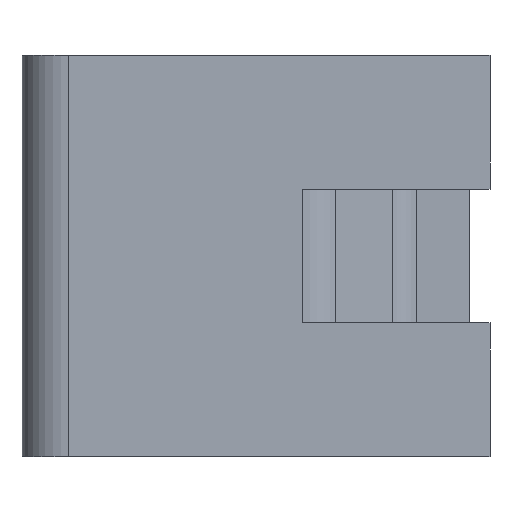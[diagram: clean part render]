
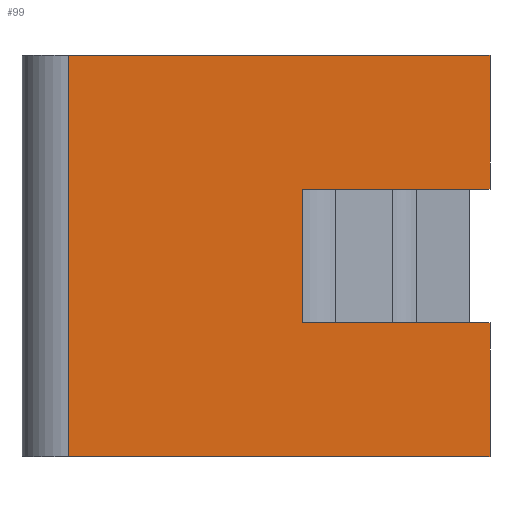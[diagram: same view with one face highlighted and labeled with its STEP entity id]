
A CAD part, front view. The second image highlights one B-rep face of the part: STEP entity #99.
In plain terms, the highlighted planar face has unit normal (0, -1, 0).
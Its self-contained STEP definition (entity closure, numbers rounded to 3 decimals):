
#20 = LINE ( 'NONE', #888, #1156 ) ;
#40 = DIRECTION ( 'NONE',  ( 1., 0., 0. ) ) ;
#58 = CARTESIAN_POINT ( 'NONE',  ( 0., 0., 15. ) ) ;
#67 = ORIENTED_EDGE ( 'NONE', *, *, #522, .F. ) ;
#99 = ADVANCED_FACE ( 'NONE', ( #1055 ), #1187, .F. ) ;
#100 = LINE ( 'NONE', #566, #313 ) ;
#136 = ORIENTED_EDGE ( 'NONE', *, *, #464, .F. ) ;
#165 = DIRECTION ( 'NONE',  ( 0., 0., -1. ) ) ;
#169 = ORIENTED_EDGE ( 'NONE', *, *, #413, .F. ) ;
#171 = EDGE_CURVE ( 'NONE', #519, #680, #673, .T. ) ;
#229 = CARTESIAN_POINT ( 'NONE',  ( 21., 0., 5. ) ) ;
#236 = DIRECTION ( 'NONE',  ( 0., 0., -1. ) ) ;
#241 = CARTESIAN_POINT ( 'NONE',  ( 0., 0., 15. ) ) ;
#292 = EDGE_LOOP ( 'NONE', ( #805, #1221, #136, #606, #169, #67, #940, #630 ) ) ;
#299 = LINE ( 'NONE', #241, #971 ) ;
#313 = VECTOR ( 'NONE', #357, 1000. ) ;
#334 = DIRECTION ( 'NONE',  ( 1., 0., 0. ) ) ;
#346 = CARTESIAN_POINT ( 'NONE',  ( 3.5, 0., 15. ) ) ;
#354 = VECTOR ( 'NONE', #40, 1000. ) ;
#357 = DIRECTION ( 'NONE',  ( 1., 0., 0. ) ) ;
#359 = DIRECTION ( 'NONE',  ( -1., 0., 0. ) ) ;
#411 = VERTEX_POINT ( 'NONE', #794 ) ;
#413 = EDGE_CURVE ( 'NONE', #506, #1073, #20, .T. ) ;
#437 = AXIS2_PLACEMENT_3D ( 'NONE', #58, #822, #633 ) ;
#464 = EDGE_CURVE ( 'NONE', #973, #665, #600, .T. ) ;
#487 = EDGE_CURVE ( 'NONE', #411, #714, #998, .T. ) ;
#506 = VERTEX_POINT ( 'NONE', #1093 ) ;
#518 = VECTOR ( 'NONE', #236, 1000. ) ;
#519 = VERTEX_POINT ( 'NONE', #346 ) ;
#522 = EDGE_CURVE ( 'NONE', #519, #506, #299, .T. ) ;
#561 = CARTESIAN_POINT ( 'NONE',  ( 3.5, 0., -15. ) ) ;
#566 = CARTESIAN_POINT ( 'NONE',  ( 0., 0., -15. ) ) ;
#571 = CARTESIAN_POINT ( 'NONE',  ( 3.5, 0., 15. ) ) ;
#600 = LINE ( 'NONE', #229, #518 ) ;
#606 = ORIENTED_EDGE ( 'NONE', *, *, #1146, .F. ) ;
#614 = VECTOR ( 'NONE', #165, 1000. ) ;
#619 = CARTESIAN_POINT ( 'NONE',  ( 21., 0., -5. ) ) ;
#630 = ORIENTED_EDGE ( 'NONE', *, *, #642, .T. ) ;
#633 = DIRECTION ( 'NONE',  ( 0., 0., 1. ) ) ;
#638 = LINE ( 'NONE', #619, #354 ) ;
#642 = EDGE_CURVE ( 'NONE', #680, #714, #100, .T. ) ;
#665 = VERTEX_POINT ( 'NONE', #1037 ) ;
#673 = LINE ( 'NONE', #571, #614 ) ;
#680 = VERTEX_POINT ( 'NONE', #561 ) ;
#714 = VERTEX_POINT ( 'NONE', #844 ) ;
#763 = VECTOR ( 'NONE', #1165, 1000. ) ;
#794 = CARTESIAN_POINT ( 'NONE',  ( 35., 0., -5. ) ) ;
#805 = ORIENTED_EDGE ( 'NONE', *, *, #487, .F. ) ;
#822 = DIRECTION ( 'NONE',  ( 0., 1., 0. ) ) ;
#844 = CARTESIAN_POINT ( 'NONE',  ( 35., 0., -15. ) ) ;
#886 = CARTESIAN_POINT ( 'NONE',  ( 35., 0., 5. ) ) ;
#888 = CARTESIAN_POINT ( 'NONE',  ( 35., 0., 15. ) ) ;
#940 = ORIENTED_EDGE ( 'NONE', *, *, #171, .T. ) ;
#971 = VECTOR ( 'NONE', #334, 1000. ) ;
#973 = VERTEX_POINT ( 'NONE', #1164 ) ;
#980 = CARTESIAN_POINT ( 'NONE',  ( 35., 0., 15. ) ) ;
#998 = LINE ( 'NONE', #980, #763 ) ;
#1037 = CARTESIAN_POINT ( 'NONE',  ( 21., 0., -5. ) ) ;
#1038 = VECTOR ( 'NONE', #359, 1000. ) ;
#1055 = FACE_OUTER_BOUND ( 'NONE', #292, .T. ) ;
#1064 = LINE ( 'NONE', #1201, #1038 ) ;
#1073 = VERTEX_POINT ( 'NONE', #886 ) ;
#1093 = CARTESIAN_POINT ( 'NONE',  ( 35., 0., 15. ) ) ;
#1106 = EDGE_CURVE ( 'NONE', #665, #411, #638, .T. ) ;
#1146 = EDGE_CURVE ( 'NONE', #1073, #973, #1064, .T. ) ;
#1156 = VECTOR ( 'NONE', #1175, 1000. ) ;
#1164 = CARTESIAN_POINT ( 'NONE',  ( 21., 0., 5. ) ) ;
#1165 = DIRECTION ( 'NONE',  ( 0., 0., -1. ) ) ;
#1175 = DIRECTION ( 'NONE',  ( 0., 0., -1. ) ) ;
#1187 = PLANE ( 'NONE',  #437 ) ;
#1201 = CARTESIAN_POINT ( 'NONE',  ( 35., 0., 5. ) ) ;
#1221 = ORIENTED_EDGE ( 'NONE', *, *, #1106, .F. ) ;
